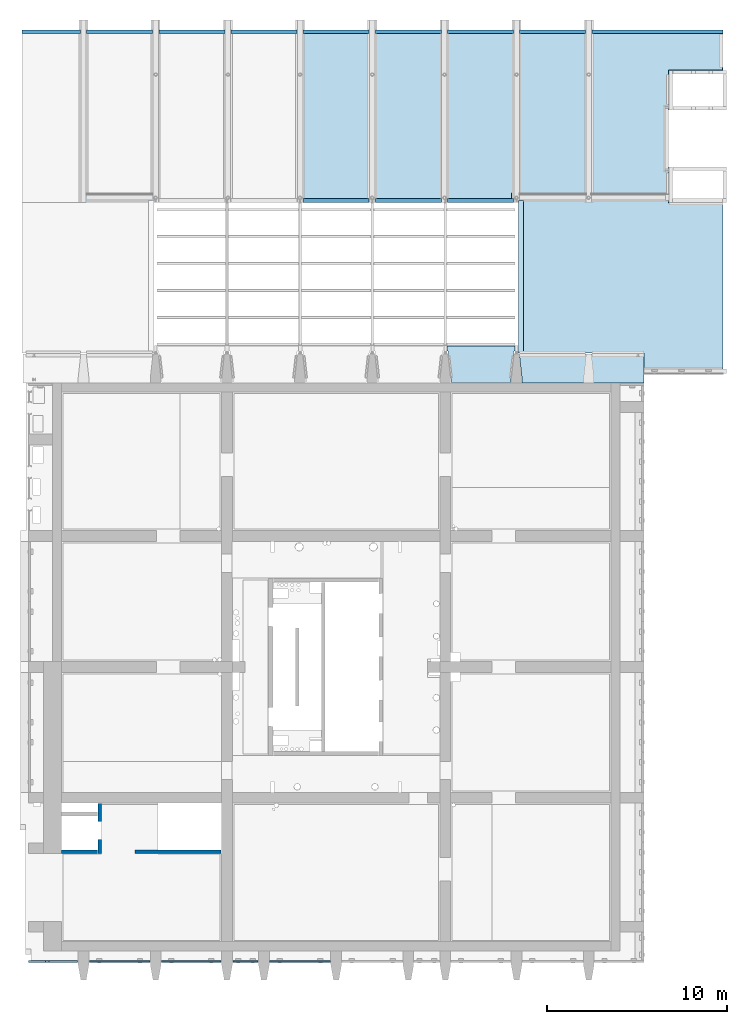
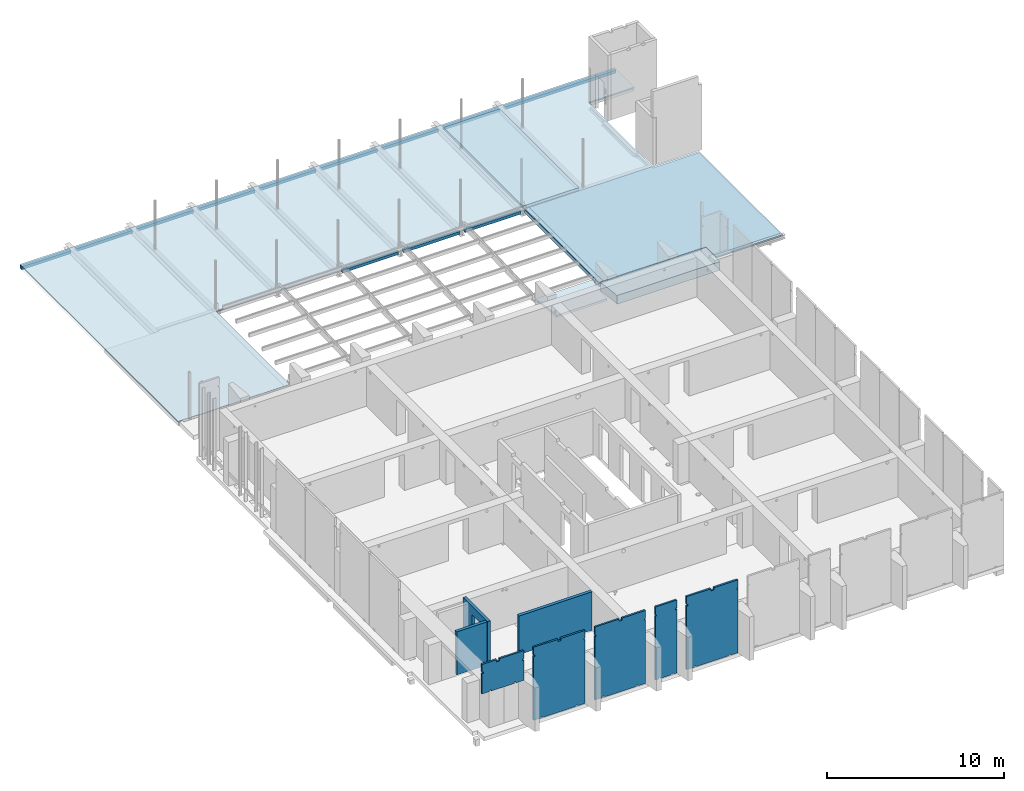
# One storey, part 25 of 31: 22 slabs, 8 walls, 25 openings.
"""IFC2X3 building model written with IfcOpenShell, lengths in millimetres."""

from ifc_helpers import new_model, entity, si_unit, converted_unit, derived_unit, direction, frame, frame_2d, origin, origin_2d_with_axis, place, context, subcontext, project, spatial, polyline, rectangle, outline, extrude, faceted_brep, material, layer, layer_set, layer_usage, type_object, element, save


model = new_model("IFC2X3")

# Units and contexts
model_context = context("Model", 3, precision=0.01, world=origin(), true_north=direction((6.12303176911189e-17, 1.0)))
body_context = subcontext(model_context, "Body", "Model", "MODEL_VIEW")
ifc_project = project(units=[si_unit("LENGTHUNIT", "METRE", prefix="MILLI"), si_unit("AREAUNIT", "SQUARE_METRE"), si_unit("VOLUMEUNIT", "CUBIC_METRE"), converted_unit("PLANEANGLEUNIT", "DEGREE", entity("IfcRatioMeasure", 0.0174532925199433), si_unit("PLANEANGLEUNIT", "RADIAN"), dimensions=[0, 0, 0, 0, 0, 0, 0]), si_unit("MASSUNIT", "GRAM", prefix="KILO"), derived_unit("MASSDENSITYUNIT", [(si_unit("MASSUNIT", "GRAM", prefix="KILO"), 1), (si_unit("LENGTHUNIT", "METRE"), -3)]), si_unit("TIMEUNIT", "SECOND"), si_unit("FREQUENCYUNIT", "HERTZ"), si_unit("THERMODYNAMICTEMPERATUREUNIT", "DEGREE_CELSIUS"), derived_unit("THERMALTRANSMITTANCEUNIT", [(si_unit("MASSUNIT", "GRAM", prefix="KILO"), 1), (si_unit("THERMODYNAMICTEMPERATUREUNIT", "KELVIN"), -1), (si_unit("TIMEUNIT", "SECOND"), -3)]), derived_unit("VOLUMETRICFLOWRATEUNIT", [(si_unit("LENGTHUNIT", "METRE"), 3), (si_unit("TIMEUNIT", "SECOND"), -1)]), si_unit("ELECTRICCURRENTUNIT", "AMPERE"), si_unit("ELECTRICVOLTAGEUNIT", "VOLT"), si_unit("POWERUNIT", "WATT"), si_unit("FORCEUNIT", "NEWTON", prefix="KILO"), si_unit("ILLUMINANCEUNIT", "LUX"), si_unit("LUMINOUSFLUXUNIT", "LUMEN"), si_unit("LUMINOUSINTENSITYUNIT", "CANDELA"), derived_unit("USERDEFINED", [(si_unit("MASSUNIT", "GRAM", prefix="KILO"), -1), (si_unit("LENGTHUNIT", "METRE"), -2), (si_unit("TIMEUNIT", "SECOND"), 3), (si_unit("LUMINOUSFLUXUNIT", "LUMEN"), 1)]), derived_unit("LINEARVELOCITYUNIT", [(si_unit("LENGTHUNIT", "METRE"), 1), (si_unit("TIMEUNIT", "SECOND"), -1)]), si_unit("PRESSUREUNIT", "PASCAL"), derived_unit("USERDEFINED", [(si_unit("LENGTHUNIT", "METRE"), -2), (si_unit("MASSUNIT", "GRAM", prefix="KILO"), 1), (si_unit("TIMEUNIT", "SECOND"), -2)])], contexts=[model_context])

# Site, building, storey
site_placement = place(None, origin())
site = spatial("IfcSite", under=ifc_project, at=site_placement, Name="Default", CompositionType="ELEMENT")
building_placement = place(site_placement, origin())
building = spatial("IfcBuilding", under=site, at=building_placement, Name="niet gebruiken", CompositionType="ELEMENT")
storey_placement = place(building_placement, frame((0.0, 0.0, 12000.0)))
storey = spatial("IfcBuildingStorey", under=building, at=storey_placement, Name="03 derde verdieping", CompositionType="ELEMENT", Elevation=12000.0)

# Slabs
ifc_material_1 = material(Name="NLRS_f2_beton prefab")
ifc_layer_1 = layer(ifc_material_1, 200.0)
ifc_layer_set_1 = layer_set([ifc_layer_1], Name="Floor:NLRS_23.21_FL_kanaalplaat d=200_gen")
ifc_layer_usage_1 = layer_usage(ifc_layer_set_1, "AXIS3", "POSITIVE", 0.0)
slab_1_placement = place(storey_placement, frame((124350.0, 43230.0, 1140.0)))
element("IfcSlab", 1, at=slab_1_placement, inside=storey, material=ifc_layer_usage_1, Name="Floor:NLRS_23.21_FL_kanaalplaat d=200_gen:2", ObjectType="Floor:NLRS_23.21_FL_kanaalplaat d=200_gen", PredefinedType="FLOOR", context=body_context, shape_type="SweptSolid", body=[
    extrude(outline(polyline([(-12160.0, 4685.0), (-19410.0, 4685.0), (-19410.0, 2655.0), (-16395.0, 2655.0), (-16395.0, 685.0), (-16200.0, 685.0), (-16200.0, -2965.0), (-16395.0, -2965.0), (-16395.0, -4285.0), (-12160.0, -4285.0), (-12160.0, 4685.0)])), frame((19410.0, 4685.0, 200.0), z_axis=(0.0, 0.0, -1.0), x_axis=(-1.0, 0.0, 0.0)), (0.0, 0.0, 1.0), 200.0),
])
slab_2_placement = place(storey_placement, frame((124350.0, 43230.0, 1140.0)))
element("IfcSlab", 2, at=slab_2_placement, inside=storey, material=ifc_layer_usage_1, Name="Floor:NLRS_23.21_FL_kanaalplaat d=200_gen:4", ObjectType="Floor:NLRS_23.21_FL_kanaalplaat d=200_gen", PredefinedType="FLOOR", context=body_context, shape_type="SweptSolid", body=[
    extrude(outline(polyline([(-7705.0, -4165.0), (-7705.0, -4465.0), (-4160.0, -4465.0), (-4160.0, 4685.0), (-7820.0, 4685.0), (-7820.0, -4165.0), (-7705.0, -4165.0)])), frame((19410.0, 4685.0, 200.0), z_axis=(0.0, 0.0, -1.0), x_axis=(-1.0, 0.0, 0.0)), (0.0, 0.0, 1.0), 200.0),
])
slab_3_placement = place(storey_placement, frame((124350.0, 43230.0, 1140.0)))
element("IfcSlab", 3, at=slab_3_placement, inside=storey, material=ifc_layer_usage_1, Name="Floor:NLRS_23.21_FL_kanaalplaat d=200_gen:6", ObjectType="Floor:NLRS_23.21_FL_kanaalplaat d=200_gen", PredefinedType="FLOOR", context=body_context, shape_type="SweptSolid", body=[
    extrude(rectangle(XDim=9150.00000000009, YDim=3660.0, at=frame_2d((2010.0, 110.0), x_axis=(0.0, 1.0))), frame((19410.0, 4685.0, 200.0), z_axis=(0.0, 0.0, -1.0), x_axis=(-1.0, 0.0, 0.0)), (0.0, 0.0, 1.0), 200.0),
])
slab_4_placement = place(storey_placement, frame((124350.0, 43230.0, 1140.0)))
element("IfcSlab", 4, at=slab_4_placement, inside=storey, material=ifc_layer_usage_1, Name="Floor:NLRS_23.21_FL_kanaalplaat d=200_gen:8", ObjectType="Floor:NLRS_23.21_FL_kanaalplaat d=200_gen", PredefinedType="FLOOR", context=body_context, shape_type="SweptSolid", body=[
    extrude(rectangle(XDim=9150.0000000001, YDim=3659.99999999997, at=frame_2d((-1990.0, 110.0), x_axis=(0.0, 1.0))), frame((19410.0, 4685.0, 200.0), z_axis=(0.0, 0.0, -1.0), x_axis=(-1.0, 0.0, 0.0)), (0.0, 0.0, 1.0), 200.0),
])
slab_5_placement = place(storey_placement, frame((124350.0, 43230.0, 1140.0)))
element("IfcSlab", 5, at=slab_5_placement, inside=storey, material=ifc_layer_usage_1, Name="Floor:NLRS_23.21_FL_kanaalplaat d=200_gen:9", ObjectType="Floor:NLRS_23.21_FL_kanaalplaat d=200_gen", PredefinedType="FLOOR", context=body_context, shape_type="SweptSolid", body=[
    extrude(rectangle(XDim=8970.00000000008, YDim=3660.00000000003, at=frame_2d((-9990.0, 200.0), x_axis=(0.0, 1.0))), frame((19410.0, 4685.0, 200.0), z_axis=(0.0, 0.0, -1.0), x_axis=(-1.0, 0.0, 0.0)), (0.0, 0.0, 1.0), 200.0),
])
ifc_material_2 = material(Name="NLRS_f2_beton ihwg")
ifc_layer_2 = layer(ifc_material_2, 70.0)
ifc_layer_set_2 = layer_set([ifc_layer_2], Name="Floor:NLRS_23.21_FL_druklaag d=70_gen")
ifc_layer_usage_2 = layer_usage(ifc_layer_set_2, "AXIS3", "POSITIVE", 0.0)
slab_6_placement = place(storey_placement, origin())
element("IfcSlab", 6, at=slab_6_placement, inside=storey, material=ifc_layer_usage_2, Name="Floor:NLRS_23.21_FL_druklaag d=70_gen", ObjectType="Floor:NLRS_23.21_FL_druklaag d=70_gen", PredefinedType="FLOOR", context=body_context, shape_type="SweptSolid", body=[
    extrude(outline(polyline([(-8106.33333333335, -28271.1111111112), (9808.66666666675, -28271.1111111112), (9808.66666666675, 10568.8888888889), (7558.66666666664, 10568.8888888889), (7558.66666666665, 7568.88888888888), (5358.66666666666, 7568.88888888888), (5358.66666666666, 7538.88888888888), (2208.66666666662, 7538.88888888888), (2208.66666666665, 7568.88888888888), (258.666666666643, 7568.88888888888), (258.666666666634, 10568.8888888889), (-9239.33333333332, 10568.8888888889), (-9239.33333333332, 6198.88888888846), (-8106.33333333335, 6198.88888888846), (-8106.33333333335, -776.111111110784), (258.666666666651, -776.111111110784), (258.666666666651, -20966.1111111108), (-8106.33333333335, -20966.1111111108), (-8106.33333333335, -28271.1111111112)])), frame((152621.111111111, 42991.3333333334, 1410.0), z_axis=(0.0, 0.0, -1.0), x_axis=(0.0, 1.0, 0.0)), (0.0, 0.0, 1.0), 69.9999999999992),
])
ifc_layer_3 = layer(ifc_material_2, 600.0)
ifc_layer_set_3 = layer_set([ifc_layer_3], Name="Floor:NLRS_23.21_FL_beton ihwg d=600_gen")
ifc_layer_usage_3 = layer_usage(ifc_layer_set_3, "AXIS3", "POSITIVE", 0.0)
slab_7_placement = place(storey_placement, origin())
element("IfcSlab", 7, at=slab_7_placement, inside=storey, material=ifc_layer_usage_3, Name="Floor:NLRS_23.21_FL_beton ihwg d=600_gen", ObjectType="Floor:NLRS_23.21_FL_beton ihwg d=600_gen", PredefinedType="FLOOR", context=body_context, shape_type="SweptSolid", body=[
    extrude(outline(polyline([(-4080.0, -702.0), (2670.0, -702.0), (2670.0, -432.0), (2820.0, 918.0), (-4080.0, 918.0), (-4080.0, -702.0)])), frame((154720.0, 33932.0, 1410.0), z_axis=(0.0, 0.0, -1.0), x_axis=(-1.0, 0.0, 0.0)), (0.0, 0.0, 1.0), 600.0),
])
ifc_layer_4 = layer(ifc_material_1, 255.0)
ifc_layer_set_4 = layer_set([ifc_layer_4], Name="Floor:NLRS_23.21_FL_kanaalplaat d=255_gen")
ifc_layer_usage_4 = layer_usage(ifc_layer_set_4, "AXIS3", "POSITIVE", 0.0)
slab_8_placement = place(storey_placement, origin())
element("IfcSlab", 8, at=slab_8_placement, inside=storey, material=ifc_layer_usage_4, Name="Floor:NLRS_23.21_FL_kanaalplaat d=255_gen", ObjectType="Floor:NLRS_23.21_FL_kanaalplaat d=255_gen", PredefinedType="FLOOR", context=body_context, shape_type="SweptSolid", body=[
    extrude(outline(polyline([(-3984.24999999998, -6436.24999999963), (4480.74999999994, -6436.24999999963), (4480.74999999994, 1588.75000000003), (4345.75000000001, 1588.75000000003), (4345.75, 4608.75), (-4842.24999999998, 4608.75), (-4842.24999999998, 238.749999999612), (-3984.24999999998, 238.749999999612), (-3984.24999999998, -6436.24999999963)])), frame((158581.25, 38869.25, 1340.0), z_axis=(0.0, 0.0, -1.0), x_axis=(0.0, 1.0, 0.0)), (0.0, 0.0, 1.0), 255.000000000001),
])
ifc_layer_5 = layer(ifc_material_1, 150.0)
ifc_layer_set_5 = layer_set([ifc_layer_5], Name="Floor:NLRS_23.21_FL_beton prefab d=150_gen")
ifc_layer_usage_5 = layer_usage(ifc_layer_set_5, "AXIS3", "POSITIVE", 0.0)
slab_9_placement = place(storey_placement, origin())
element("IfcSlab", 9, at=slab_9_placement, inside=storey, material=ifc_layer_usage_5, Name="Floor:NLRS_23.21_FL_beton prefab d=150_gen", ObjectType="Floor:NLRS_23.21_FL_beton prefab d=150_gen", PredefinedType="FLOOR", context=body_context, shape_type="SweptSolid", body=[
    extrude(outline(polyline([(597.778459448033, -1875.0), (877.778459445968, -1875.0), (877.778459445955, 1875.0), (597.778459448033, 1875.0), (597.778459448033, 1822.65469969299), (-911.113837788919, 1655.0), (-1162.22154055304, 1655.0), (-1162.221540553, -1655.0), (-911.113837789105, -1655.0), (597.778459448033, -1822.65469969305), (597.778459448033, -1875.0)])), frame((149775.0, 34412.221540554, 1410.0), z_axis=(0.0, 0.0, -1.0), x_axis=(0.0, 1.0, 0.0)), (0.0, 0.0, 1.0), 150.000000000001),
])
ifc_layer_6 = layer(ifc_material_2, 255.0)
ifc_layer_set_6 = layer_set([ifc_layer_6], Name="Floor:NLRS_13.22_FL_beton ihwg d=255_gen")
ifc_layer_usage_6 = layer_usage(ifc_layer_set_6, "AXIS3", "POSITIVE", 0.0)
slab_10_placement = place(storey_placement, origin())
element("IfcSlab", 10, at=slab_10_placement, inside=storey, material=ifc_layer_usage_6, Name="Floor:NLRS_13.22_FL_beton ihwg d=255_gen", ObjectType="Floor:NLRS_13.22_FL_beton ihwg d=255_gen", PredefinedType="BASESLAB", context=body_context, shape_type="SweptSolid", body=[
    extrude(rectangle(XDim=8464.99999999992, YDim=300.000000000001, at=frame_2d((-1.81898940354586e-12, 0.0), x_axis=(1.0, 0.0))), frame((151995.0, 39117.5, 1340.0), z_axis=(0.0, 0.0, -1.0), x_axis=(0.0, 1.0, 0.0)), (0.0, 0.0, 1.0), 255.000000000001),
])
ifc_layer_7 = layer(ifc_material_2, 200.0)
ifc_layer_set_7 = layer_set([ifc_layer_7], Name="Floor:NLRS_13.22_FL_beton ihwg d=200_gen")
ifc_layer_usage_7 = layer_usage(ifc_layer_set_7, "AXIS3", "POSITIVE", 0.0)
slab_11_placement = place(storey_placement, frame((124350.0, 52600.0, 1140.0)))
element("IfcSlab", 11, at=slab_11_placement, inside=storey, material=ifc_layer_usage_7, Name="Floor:NLRS_13.22_FL_beton ihwg d=200_gen", ObjectType="Floor:NLRS_13.22_FL_beton ihwg d=200_gen", PredefinedType="BASESLAB", context=body_context, shape_type="SweptSolid", body=[
    extrude(rectangle(XDim=3660.0, YDim=199.999999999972, at=frame_2d((2020.0, 0.0), x_axis=(1.0, 0.0))), frame((19420.0, 100.0, 200.0), z_axis=(0.0, 0.0, -1.0), x_axis=(-1.0, 0.0, 0.0)), (0.0, 0.0, 1.0), 200.0),
])
slab_12_placement = place(storey_placement, frame((124350.0, 52600.0, 1140.0)))
element("IfcSlab", 12, at=slab_12_placement, inside=storey, material=ifc_layer_usage_7, Name="Floor:NLRS_13.22_FL_beton ihwg d=200_gen:2", ObjectType="Floor:NLRS_13.22_FL_beton ihwg d=200_gen", PredefinedType="BASESLAB", context=body_context, shape_type="SweptSolid", body=[
    extrude(rectangle(XDim=3660.0, YDim=199.999999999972, at=frame_2d((6020.0, 0.0), x_axis=(1.0, 0.0))), frame((19420.0, 100.0, 200.0), z_axis=(0.0, 0.0, -1.0), x_axis=(-1.0, 0.0, 0.0)), (0.0, 0.0, 1.0), 200.0),
])
slab_13_placement = place(storey_placement, frame((124350.0, 52600.0, 1140.0)))
element("IfcSlab", 13, at=slab_13_placement, inside=storey, material=ifc_layer_usage_7, Name="Floor:NLRS_13.22_FL_beton ihwg d=200_gen:3", ObjectType="Floor:NLRS_13.22_FL_beton ihwg d=200_gen", PredefinedType="BASESLAB", context=body_context, shape_type="SweptSolid", body=[
    extrude(rectangle(XDim=3660.0, YDim=199.999999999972, at=frame_2d((10020.0, 0.0), x_axis=(1.0, 0.0))), frame((19420.0, 100.0, 200.0), z_axis=(0.0, 0.0, -1.0), x_axis=(-1.0, 0.0, 0.0)), (0.0, 0.0, 1.0), 200.0),
])
slab_14_placement = place(storey_placement, frame((124350.0, 52600.0, 1140.0)))
element("IfcSlab", 14, at=slab_14_placement, inside=storey, material=ifc_layer_usage_7, Name="Floor:NLRS_13.22_FL_beton ihwg d=200_gen:4", ObjectType="Floor:NLRS_13.22_FL_beton ihwg d=200_gen", PredefinedType="BASESLAB", context=body_context, shape_type="SweptSolid", body=[
    extrude(rectangle(XDim=3660.0, YDim=199.999999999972, at=frame_2d((14020.0, 0.0), x_axis=(1.0, 0.0))), frame((19420.0, 100.0, 200.0), z_axis=(0.0, 0.0, -1.0), x_axis=(-1.0, 0.0, 0.0)), (0.0, 0.0, 1.0), 200.0),
])
slab_15_placement = place(storey_placement, frame((124350.0, 52600.0, 1140.0)))
element("IfcSlab", 15, at=slab_15_placement, inside=storey, material=ifc_layer_usage_7, Name="Floor:NLRS_13.22_FL_beton ihwg d=200_gen:5", ObjectType="Floor:NLRS_13.22_FL_beton ihwg d=200_gen", PredefinedType="BASESLAB", context=body_context, shape_type="SweptSolid", body=[
    extrude(rectangle(XDim=3230.00000000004, YDim=199.999999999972, at=frame_2d((17805.0, 0.0), x_axis=(1.0, 0.0))), frame((19420.0, 100.0, 200.0), z_axis=(0.0, 0.0, -1.0), x_axis=(-1.0, 0.0, 0.0)), (0.0, 0.0, 1.0), 200.0),
])
slab_16_placement = place(storey_placement, frame((124350.0, 52600.0, 1140.0)))
element("IfcSlab", 16, at=slab_16_placement, inside=storey, material=ifc_layer_usage_7, Name="Floor:NLRS_13.22_FL_beton ihwg d=200_gen:6", ObjectType="Floor:NLRS_13.22_FL_beton ihwg d=200_gen", PredefinedType="BASESLAB", context=body_context, shape_type="SweptSolid", body=[
    extrude(rectangle(XDim=3660.0, YDim=199.999999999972, at=frame_2d((-1980.0, 0.0), x_axis=(1.0, 0.0))), frame((19420.0, 100.0, 200.0), z_axis=(0.0, 0.0, -1.0), x_axis=(-1.0, 0.0, 0.0)), (0.0, 0.0, 1.0), 200.0),
])
slab_17_placement = place(storey_placement, frame((124350.0, 52600.0, 1140.0)))
element("IfcSlab", 17, at=slab_17_placement, inside=storey, material=ifc_layer_usage_7, Name="Floor:NLRS_13.22_FL_beton ihwg d=200_gen:7", ObjectType="Floor:NLRS_13.22_FL_beton ihwg d=200_gen", PredefinedType="BASESLAB", context=body_context, shape_type="SweptSolid", body=[
    extrude(rectangle(XDim=3660.0, YDim=199.999999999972, at=frame_2d((-5980.0, 0.0), x_axis=(1.0, 0.0))), frame((19420.0, 100.0, 200.0), z_axis=(0.0, 0.0, -1.0), x_axis=(-1.0, 0.0, 0.0)), (0.0, 0.0, 1.0), 200.0),
])
slab_18_placement = place(storey_placement, frame((124350.0, 52600.0, 1140.0)))
element("IfcSlab", 18, at=slab_18_placement, inside=storey, material=ifc_layer_usage_7, Name="Floor:NLRS_13.22_FL_beton ihwg d=200_gen:8", ObjectType="Floor:NLRS_13.22_FL_beton ihwg d=200_gen", PredefinedType="BASESLAB", context=body_context, shape_type="SweptSolid", body=[
    extrude(rectangle(XDim=3660.0, YDim=199.999999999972, at=frame_2d((-9980.0, 0.0), x_axis=(1.0, 0.0))), frame((19420.0, 100.0, 200.0), z_axis=(0.0, 0.0, -1.0), x_axis=(-1.0, 0.0, 0.0)), (0.0, 0.0, 1.0), 200.0),
])
slab_19_placement = place(storey_placement, frame((124350.0, 52600.0, 1140.0)))
element("IfcSlab", 19, at=slab_19_placement, inside=storey, material=ifc_layer_usage_7, Name="Floor:NLRS_13.22_FL_beton ihwg d=200_gen:9", ObjectType="Floor:NLRS_13.22_FL_beton ihwg d=200_gen", PredefinedType="BASESLAB", context=body_context, shape_type="SweptSolid", body=[
    extrude(rectangle(XDim=7270.00000000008, YDim=199.999999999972, at=frame_2d((-15785.0, 0.0), x_axis=(1.0, 0.0))), frame((19420.0, 100.0, 200.0), z_axis=(0.0, 0.0, -1.0), x_axis=(-1.0, 0.0, 0.0)), (0.0, 0.0, 1.0), 200.0),
])
ifc_layer_usage_8 = layer_usage(ifc_layer_set_7, "AXIS3", "POSITIVE", 0.0)
slab_20_placement = place(storey_placement, frame((131920.0, 43250.0, 1140.0)))
element("IfcSlab", 20, at=slab_20_placement, inside=storey, material=ifc_layer_usage_8, Name="Floor:NLRS_13.22_FL_beton ihwg d=200_gen", ObjectType="Floor:NLRS_13.22_FL_beton ihwg d=200_gen", PredefinedType="BASESLAB", context=body_context, shape_type="SweptSolid", body=[
    extrude(rectangle(XDim=3660.0, YDim=199.999999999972, at=origin_2d_with_axis()), frame((9830.0, 100.0, 200.0), z_axis=(0.0, 0.0, -1.0), x_axis=(-1.0, 0.0, 0.0)), (0.0, 0.0, 1.0), 200.0),
])
slab_21_placement = place(storey_placement, frame((131920.0, 43250.0, 1140.0)))
element("IfcSlab", 21, at=slab_21_placement, inside=storey, material=ifc_layer_usage_8, Name="Floor:NLRS_13.22_FL_beton ihwg d=200_gen:4", ObjectType="Floor:NLRS_13.22_FL_beton ihwg d=200_gen", PredefinedType="BASESLAB", context=body_context, shape_type="SweptSolid", body=[
    extrude(rectangle(XDim=3660.0, YDim=199.999999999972, at=frame_2d((-4000.0, 0.0), x_axis=(1.0, 0.0))), frame((9830.0, 100.0, 200.0), z_axis=(0.0, 0.0, -1.0), x_axis=(-1.0, 0.0, 0.0)), (0.0, 0.0, 1.0), 200.0),
])
slab_22_placement = place(storey_placement, frame((131920.0, 43250.0, 1140.0)))
element("IfcSlab", 22, at=slab_22_placement, inside=storey, material=ifc_layer_usage_8, Name="Floor:NLRS_13.22_FL_beton ihwg d=200_gen:5", ObjectType="Floor:NLRS_13.22_FL_beton ihwg d=200_gen", PredefinedType="BASESLAB", context=body_context, shape_type="SweptSolid", body=[
    extrude(rectangle(XDim=3660.0, YDim=199.999999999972, at=frame_2d((-8000.0, 0.0), x_axis=(1.0, 0.0))), frame((9830.0, 100.0, 200.0), z_axis=(0.0, 0.0, -1.0), x_axis=(-1.0, 0.0, 0.0)), (0.0, 0.0, 1.0), 200.0),
])

# Wall, opening
ifc_layer_8 = layer(ifc_material_1, 200.0)
ifc_layer_set_8 = layer_set([ifc_layer_8], Name="Basic Wall:NLRS_22.21_WA_beton prefab d=200_gen")
ifc_layer_usage_9 = layer_usage(ifc_layer_set_8, "AXIS2", "NEGATIVE", 100.0)
wall_type_1 = type_object("IfcWallType", Name="Basic Wall:NLRS_22.21_WA_beton prefab d=200_gen", PredefinedType="STANDARD", material=ifc_layer_set_8)
wall_1_placement = place(storey_placement, frame((128640.0, 7150.0, -50.0), z_axis=(0.0, 0.0, 1.0), x_axis=(0.0, 1.0, 0.0)))
wall_1 = element("IfcWallStandardCase", 23, at=wall_1_placement, inside=storey, type_object=wall_type_1, material=ifc_layer_usage_9, Name="Basic Wall:NLRS_22.21_WA_beton prefab d=200_gen", ObjectType="Basic Wall:NLRS_22.21_WA_beton prefab d=200_gen", context=body_context, shape_type="SweptSolid", body=[
    extrude(rectangle(XDim=2779.99999999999, YDim=199.999999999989, at=frame_2d((1390.0, 0.0), x_axis=(-1.0, 0.0))), origin(), (0.0, 0.0, 1.0), 2980.0),
])
opening_1_placement = place(wall_1_placement, frame((778.0, 100.0, 0.0)))
element("IfcOpeningElement", 24, at=opening_1_placement, cuts=wall_1, Name="Basic Wall:NLRS_22.21_WA_beton prefab d=200_gen", ObjectType="Opening", context=body_context, shape_type="Brep", body=[
    faceted_brep([(992.0, 0.0, 2390.0), (992.0, 0.0, 0.0), (12.0, 0.0, 0.0), (12.0, 0.0, 2390.0), (1004.0, -200.0, 2402.0), (0.0, -200.0, 2402.0), (0.0, -200.0, 0.0), (1004.0, -200.0, 0.0)], [[[0, 1, 2, 3]], [[4, 5, 6, 7]], [[4, 0, 3, 5]], [[5, 3, 2, 6]], [[6, 2, 1, 7]], [[7, 1, 0, 4]]]),
])

# Walls
ifc_layer_usage_10 = layer_usage(ifc_layer_set_8, "AXIS2", "NEGATIVE", 100.0)
wall_2_placement = place(storey_placement, frame((126540.0, 7250.0, -50.0)))
element("IfcWallStandardCase", 25, at=wall_2_placement, inside=storey, type_object=wall_type_1, material=ifc_layer_usage_10, Name="Basic Wall:NLRS_22.21_WA_beton prefab d=200_gen", ObjectType="Basic Wall:NLRS_22.21_WA_beton prefab d=200_gen", context=body_context, shape_type="SweptSolid", body=[
    extrude(rectangle(XDim=1979.99999999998, YDim=200.0, at=frame_2d((989.999999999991, -2.98427949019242e-13), x_axis=(-1.0, 0.0))), origin(), (0.0, 0.0, 1.0), 2980.0),
])
ifc_layer_usage_11 = layer_usage(ifc_layer_set_8, "AXIS2", "NEGATIVE", 100.0)
wall_3_placement = place(storey_placement, frame((130600.0, 7250.0, -50.0)))
element("IfcWallStandardCase", 26, at=wall_3_placement, inside=storey, type_object=wall_type_1, material=ifc_layer_usage_11, Name="Basic Wall:NLRS_22.21_WA_beton prefab d=200_gen", ObjectType="Basic Wall:NLRS_22.21_WA_beton prefab d=200_gen", context=body_context, shape_type="SweptSolid", body=[
    extrude(rectangle(XDim=4780.00000000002, YDim=200.0, at=frame_2d((2390.00000000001, 7.105427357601e-14), x_axis=(-1.0, 0.0))), origin(), (0.0, 0.0, 1.0), 2660.0),
])

# Wall, openings
ifc_layer_9 = layer(ifc_material_1, 120.0)
ifc_layer_set_9 = layer_set([ifc_layer_9], Name="Basic Wall:NLRS_21.21_WA_beton prefab d=120_gen")
ifc_layer_usage_12 = layer_usage(ifc_layer_set_9, "AXIS2", "NEGATIVE", 60.0)
wall_type_2 = type_object("IfcWallType", Name="Basic Wall:NLRS_21.21_WA_beton prefab d=120_gen", PredefinedType="STANDARD", material=ifc_layer_set_9)
wall_4_placement = place(storey_placement, frame((131430.0, 1174.0, -60.0), z_axis=(0.0, 0.0, 1.0), x_axis=(-1.0, 0.0, 0.0)))
wall_4 = element("IfcWallStandardCase", 27, at=wall_4_placement, inside=storey, type_object=wall_type_2, material=ifc_layer_usage_12, Name="Basic Wall:NLRS_21.21_WA_beton prefab d=120_gen", ObjectType="Basic Wall:NLRS_21.21_WA_beton prefab d=120_gen", context=body_context, shape_type="SweptSolid", body=[
    extrude(rectangle(XDim=3360.0, YDim=120.0, at=frame_2d((1680.0, -4.61852778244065e-14), x_axis=(-1.0, 0.0))), origin(), (0.0, 0.0, 1.0), 5045.00000000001),
])
opening_2_placement = place(wall_4_placement, origin())
element("IfcOpeningElement", 28, at=opening_2_placement, cuts=wall_4, Name="Basic Wall:NLRS_21.21_WA_beton prefab d=120_gen", ObjectType="Opening", context=body_context, shape_type="SweptSolid", body=[
    extrude(rectangle(XDim=150.000000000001, YDim=190.000000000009, at=origin_2d_with_axis()), frame((1680.0, -79.0, 4970.0), z_axis=(0.0, 1.0, 0.0), x_axis=(0.0, 0.0, -1.0)), (0.0, 0.0, 1.0), 158.000000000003),
])
opening_3_placement = place(wall_4_placement, origin())
element("IfcOpeningElement", 29, at=opening_3_placement, cuts=wall_4, Name="Basic Wall:NLRS_21.21_WA_beton prefab d=120_gen", ObjectType="Opening", context=body_context, shape_type="SweptSolid", body=[
    extrude(rectangle(XDim=99.9999999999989, YDim=79.9999999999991, at=frame_2d((2.16715534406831e-12, 0.0), x_axis=(1.0, 0.0))), frame((3320.0, -75.0, 4445.0), z_axis=(0.0, 1.0, 0.0), x_axis=(0.0, 0.0, -1.0)), (0.0, 0.0, 1.0), 150.000000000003),
])
opening_4_placement = place(wall_4_placement, origin())
element("IfcOpeningElement", 30, at=opening_4_placement, cuts=wall_4, Name="Basic Wall:NLRS_21.21_WA_beton prefab d=120_gen", ObjectType="Opening", context=body_context, shape_type="SweptSolid", body=[
    extrude(rectangle(XDim=99.9999999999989, YDim=80.0000000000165, at=frame_2d((-8.66506866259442e-12, 0.0), x_axis=(0.0, 1.0))), frame((40.0, -75.0, 4445.0), z_axis=(0.0, 1.0, 0.0), x_axis=(1.0, 0.0, 0.0)), (0.0, 0.0, 1.0), 150.000000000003),
])
opening_5_placement = place(wall_4_placement, origin())
element("IfcOpeningElement", 31, at=opening_5_placement, cuts=wall_4, Name="Basic Wall:NLRS_21.21_WA_beton prefab d=120_gen", ObjectType="Opening", context=body_context, shape_type="SweptSolid", body=[
    extrude(rectangle(XDim=79.9999999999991, YDim=100.000000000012, at=frame_2d((8.66506866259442e-12, 0.0), x_axis=(0.0, 1.0))), frame((2810.0, -75.0, 40.0), z_axis=(0.0, 1.0, 0.0), x_axis=(1.0, 0.0, 0.0)), (0.0, 0.0, 1.0), 150.000000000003),
])
opening_6_placement = place(wall_4_placement, origin())
element("IfcOpeningElement", 32, at=opening_6_placement, cuts=wall_4, Name="Basic Wall:NLRS_21.21_WA_beton prefab d=120_gen", ObjectType="Opening", context=body_context, shape_type="SweptSolid", body=[
    extrude(rectangle(XDim=79.9999999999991, YDim=99.9999999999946, at=origin_2d_with_axis()), frame((550.0, -75.0, 40.0), z_axis=(0.0, 1.0, 0.0), x_axis=(0.0, 0.0, -1.0)), (0.0, 0.0, 1.0), 150.000000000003),
])

ifc_layer_usage_13 = layer_usage(ifc_layer_set_9, "AXIS2", "NEGATIVE", 60.0)
wall_5_placement = place(storey_placement, frame((141430.0, 1174.0, -60.0), z_axis=(0.0, 0.0, 1.0), x_axis=(-1.0, 0.0, 0.0)))
wall_5 = element("IfcWallStandardCase", 33, at=wall_5_placement, inside=storey, type_object=wall_type_2, material=ifc_layer_usage_13, Name="Basic Wall:NLRS_21.21_WA_beton prefab d=120_gen", ObjectType="Basic Wall:NLRS_21.21_WA_beton prefab d=120_gen", context=body_context, shape_type="SweptSolid", body=[
    extrude(rectangle(XDim=3360.0, YDim=120.0, at=frame_2d((1680.0, -4.61852778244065e-14), x_axis=(-1.0, 0.0))), origin(), (0.0, 0.0, 1.0), 5045.00000000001),
])
opening_7_placement = place(wall_5_placement, origin())
element("IfcOpeningElement", 34, at=opening_7_placement, cuts=wall_5, Name="Basic Wall:NLRS_21.21_WA_beton prefab d=120_gen", ObjectType="Opening", context=body_context, shape_type="SweptSolid", body=[
    extrude(rectangle(XDim=150.000000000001, YDim=190.000000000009, at=frame_2d((0.0, -1.73301373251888e-11), x_axis=(1.0, 0.0))), frame((1680.0, -79.0, 4970.0), z_axis=(0.0, 1.0, 0.0), x_axis=(0.0, 0.0, -1.0)), (0.0, 0.0, 1.0), 158.000000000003),
])
opening_8_placement = place(wall_5_placement, origin())
element("IfcOpeningElement", 35, at=opening_8_placement, cuts=wall_5, Name="Basic Wall:NLRS_21.21_WA_beton prefab d=120_gen", ObjectType="Opening", context=body_context, shape_type="SweptSolid", body=[
    extrude(rectangle(XDim=99.9999999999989, YDim=79.9999999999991, at=frame_2d((-2.16715534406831e-12, 0.0), x_axis=(1.0, 0.0))), frame((3320.0, -75.0, 4445.0), z_axis=(0.0, 1.0, 0.0), x_axis=(0.0, 0.0, -1.0)), (0.0, 0.0, 1.0), 150.000000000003),
])
opening_9_placement = place(wall_5_placement, origin())
element("IfcOpeningElement", 36, at=opening_9_placement, cuts=wall_5, Name="Basic Wall:NLRS_21.21_WA_beton prefab d=120_gen", ObjectType="Opening", context=body_context, shape_type="SweptSolid", body=[
    extrude(rectangle(XDim=99.9999999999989, YDim=80.0000000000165, at=frame_2d((8.66506866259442e-12, 0.0), x_axis=(0.0, 1.0))), frame((40.0, -75.0, 4445.0), z_axis=(0.0, 1.0, 0.0), x_axis=(1.0, 0.0, 0.0)), (0.0, 0.0, 1.0), 150.000000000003),
])
opening_10_placement = place(wall_5_placement, origin())
element("IfcOpeningElement", 37, at=opening_10_placement, cuts=wall_5, Name="Basic Wall:NLRS_21.21_WA_beton prefab d=120_gen", ObjectType="Opening", context=body_context, shape_type="SweptSolid", body=[
    extrude(rectangle(XDim=79.9999999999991, YDim=100.000000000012, at=frame_2d((-8.66506866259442e-12, 0.0), x_axis=(0.0, 1.0))), frame((2810.0, -75.0, 40.0), z_axis=(0.0, 1.0, 0.0), x_axis=(1.0, 0.0, 0.0)), (0.0, 0.0, 1.0), 150.000000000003),
])
opening_11_placement = place(wall_5_placement, origin())
element("IfcOpeningElement", 38, at=opening_11_placement, cuts=wall_5, Name="Basic Wall:NLRS_21.21_WA_beton prefab d=120_gen", ObjectType="Opening", context=body_context, shape_type="SweptSolid", body=[
    extrude(rectangle(XDim=79.9999999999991, YDim=99.9999999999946, at=origin_2d_with_axis()), frame((550.0, -75.0, 40.0), z_axis=(0.0, 1.0, 0.0), x_axis=(0.0, 0.0, -1.0)), (0.0, 0.0, 1.0), 150.000000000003),
])

ifc_layer_usage_14 = layer_usage(ifc_layer_set_9, "AXIS2", "NEGATIVE", 60.0)
wall_6_placement = place(storey_placement, frame((135380.0, 1174.0, -60.0), z_axis=(0.0, 0.0, 1.0), x_axis=(-1.0, 0.0, 0.0)))
wall_6 = element("IfcWallStandardCase", 39, at=wall_6_placement, inside=storey, type_object=wall_type_2, material=ifc_layer_usage_14, Name="Basic Wall:NLRS_21.21_WA_beton prefab d=120_gen", ObjectType="Basic Wall:NLRS_21.21_WA_beton prefab d=120_gen", context=body_context, shape_type="SweptSolid", body=[
    extrude(rectangle(XDim=3309.99999999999, YDim=120.0, at=frame_2d((1655.0, 1.06581410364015e-14), x_axis=(-1.0, 0.0))), origin(), (0.0, 0.0, 1.0), 5045.00000000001),
])
opening_12_placement = place(wall_6_placement, origin())
element("IfcOpeningElement", 40, at=opening_12_placement, cuts=wall_6, Name="Basic Wall:NLRS_21.21_WA_beton prefab d=120_gen", ObjectType="Opening", context=body_context, shape_type="SweptSolid", body=[
    extrude(rectangle(XDim=150.000000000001, YDim=190.000000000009, at=origin_2d_with_axis()), frame((1630.0, -79.0, 4970.0), z_axis=(0.0, 1.0, 0.0), x_axis=(0.0, 0.0, -1.0)), (0.0, 0.0, 1.0), 158.000000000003),
])
opening_13_placement = place(wall_6_placement, origin())
element("IfcOpeningElement", 41, at=opening_13_placement, cuts=wall_6, Name="Basic Wall:NLRS_21.21_WA_beton prefab d=120_gen", ObjectType="Opening", context=body_context, shape_type="SweptSolid", body=[
    extrude(rectangle(XDim=99.9999999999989, YDim=79.9999999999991, at=frame_2d((-2.16715534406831e-12, 1.732658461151e-11), x_axis=(1.0, 0.0))), frame((3270.0, -75.0, 4445.0), z_axis=(0.0, 1.0, 0.0), x_axis=(0.0, 0.0, -1.0)), (0.0, 0.0, 1.0), 150.000000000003),
])
opening_14_placement = place(wall_6_placement, origin())
element("IfcOpeningElement", 42, at=opening_14_placement, cuts=wall_6, Name="Basic Wall:NLRS_21.21_WA_beton prefab d=120_gen", ObjectType="Opening", context=body_context, shape_type="SweptSolid", body=[
    extrude(rectangle(XDim=79.9999999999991, YDim=100.000000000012, at=frame_2d((-8.66506866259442e-12, 0.0), x_axis=(0.0, 1.0))), frame((2760.0, -75.0, 40.0), z_axis=(0.0, 1.0, 0.0), x_axis=(1.0, 0.0, 0.0)), (0.0, 0.0, 1.0), 150.000000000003),
])
opening_15_placement = place(wall_6_placement, origin())
element("IfcOpeningElement", 43, at=opening_15_placement, cuts=wall_6, Name="Basic Wall:NLRS_21.21_WA_beton prefab d=120_gen", ObjectType="Opening", context=body_context, shape_type="SweptSolid", body=[
    extrude(rectangle(XDim=79.9999999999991, YDim=99.9999999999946, at=origin_2d_with_axis()), frame((550.0, -75.0, 40.0), z_axis=(0.0, 1.0, 0.0), x_axis=(0.0, 0.0, -1.0)), (0.0, 0.0, 1.0), 150.000000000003),
])
opening_16_placement = place(wall_6_placement, origin())
element("IfcOpeningElement", 44, at=opening_16_placement, cuts=wall_6, Name="Basic Wall:NLRS_21.21_WA_beton prefab d=120_gen", ObjectType="Opening", context=body_context, shape_type="SweptSolid", body=[
    extrude(rectangle(XDim=99.9999999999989, YDim=80.0000000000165, at=frame_2d((-8.66506866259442e-12, 0.0), x_axis=(0.0, 1.0))), frame((40.0, -75.0, 4445.0), z_axis=(0.0, 1.0, 0.0), x_axis=(1.0, 0.0, 0.0)), (0.0, 0.0, 1.0), 150.000000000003),
])

ifc_layer_usage_15 = layer_usage(ifc_layer_set_9, "AXIS2", "NEGATIVE", 60.0)
wall_7_placement = place(storey_placement, frame((137430.0, 1174.0, -60.0), z_axis=(0.0, 0.0, 1.0), x_axis=(-1.0, 0.0, 0.0)))
wall_7 = element("IfcWallStandardCase", 45, at=wall_7_placement, inside=storey, type_object=wall_type_2, material=ifc_layer_usage_15, Name="Basic Wall:NLRS_21.21_WA_beton prefab d=120_gen", ObjectType="Basic Wall:NLRS_21.21_WA_beton prefab d=120_gen", context=body_context, shape_type="SweptSolid", body=[
    extrude(rectangle(XDim=1409.99999999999, YDim=120.0, at=frame_2d((704.999999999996, -4.9737991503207e-14), x_axis=(-1.0, 0.0))), origin(), (0.0, 0.0, 1.0), 5045.00000000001),
])
opening_17_placement = place(wall_7_placement, origin())
element("IfcOpeningElement", 46, at=opening_17_placement, cuts=wall_7, Name="Basic Wall:NLRS_21.21_WA_beton prefab d=120_gen", ObjectType="Opening", context=body_context, shape_type="SweptSolid", body=[
    extrude(rectangle(XDim=99.9999999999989, YDim=79.9999999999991, at=frame_2d((-2.16715534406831e-12, 0.0), x_axis=(1.0, 0.0))), frame((1370.0, -75.0, 4445.0), z_axis=(0.0, 1.0, 0.0), x_axis=(0.0, 0.0, -1.0)), (0.0, 0.0, 1.0), 150.000000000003),
])
opening_18_placement = place(wall_7_placement, origin())
element("IfcOpeningElement", 47, at=opening_18_placement, cuts=wall_7, Name="Basic Wall:NLRS_21.21_WA_beton prefab d=120_gen", ObjectType="Opening", context=body_context, shape_type="SweptSolid", body=[
    extrude(rectangle(XDim=79.9999999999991, YDim=100.000000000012, at=frame_2d((-8.66506866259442e-12, 0.0), x_axis=(0.0, 1.0))), frame((1110.0, -75.0, 40.0), z_axis=(0.0, 1.0, 0.0), x_axis=(1.0, 0.0, 0.0)), (0.0, 0.0, 1.0), 150.000000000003),
])
opening_19_placement = place(wall_7_placement, origin())
element("IfcOpeningElement", 48, at=opening_19_placement, cuts=wall_7, Name="Basic Wall:NLRS_21.21_WA_beton prefab d=120_gen", ObjectType="Opening", context=body_context, shape_type="SweptSolid", body=[
    extrude(rectangle(XDim=99.9999999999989, YDim=80.0000000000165, at=frame_2d((8.66506866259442e-12, 2.16715534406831e-12), x_axis=(0.0, 1.0))), frame((40.0, -75.0, 4445.0), z_axis=(0.0, 1.0, 0.0), x_axis=(1.0, 0.0, 0.0)), (0.0, 0.0, 1.0), 150.000000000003),
])
opening_20_placement = place(wall_7_placement, origin())
element("IfcOpeningElement", 49, at=opening_20_placement, cuts=wall_7, Name="Basic Wall:NLRS_21.21_WA_beton prefab d=120_gen", ObjectType="Opening", context=body_context, shape_type="SweptSolid", body=[
    extrude(rectangle(XDim=79.9999999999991, YDim=99.9999999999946, at=origin_2d_with_axis()), frame((300.0, -75.0, 40.0), z_axis=(0.0, 1.0, 0.0), x_axis=(0.0, 0.0, -1.0)), (0.0, 0.0, 1.0), 150.000000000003),
])

ifc_layer_usage_16 = layer_usage(ifc_layer_set_9, "AXIS2", "NEGATIVE", 60.0)
wall_8_placement = place(storey_placement, frame((127430.0, 1174.0, 2940.0), z_axis=(0.0, 0.0, 1.0), x_axis=(-1.0, 0.0, 0.0)))
wall_8 = element("IfcWallStandardCase", 50, at=wall_8_placement, inside=storey, type_object=wall_type_2, material=ifc_layer_usage_16, Name="Basic Wall:NLRS_21.21_WA_beton prefab d=120_gen", ObjectType="Basic Wall:NLRS_21.21_WA_beton prefab d=120_gen", context=body_context, shape_type="SweptSolid", body=[
    extrude(rectangle(XDim=2730.0, YDim=120.0, at=frame_2d((1365.0, 0.0), x_axis=(-1.0, 0.0))), origin(), (0.0, 0.0, 1.0), 2045.00000000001),
])
opening_21_placement = place(wall_8_placement, origin())
element("IfcOpeningElement", 51, at=opening_21_placement, cuts=wall_8, Name="Basic Wall:NLRS_21.21_WA_beton prefab d=120_gen", ObjectType="Opening", context=body_context, shape_type="SweptSolid", body=[
    extrude(rectangle(XDim=150.000000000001, YDim=190.000000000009, at=frame_2d((0.0, -1.73301373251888e-11), x_axis=(1.0, 0.0))), frame((1680.0, -79.0, 1970.0), z_axis=(0.0, 1.0, 0.0), x_axis=(0.0, 0.0, -1.0)), (0.0, 0.0, 1.0), 158.000000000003),
])
opening_22_placement = place(wall_8_placement, origin())
element("IfcOpeningElement", 52, at=opening_22_placement, cuts=wall_8, Name="Basic Wall:NLRS_21.21_WA_beton prefab d=120_gen", ObjectType="Opening", context=body_context, shape_type="SweptSolid", body=[
    extrude(rectangle(XDim=99.9999999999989, YDim=80.0000000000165, at=frame_2d((8.66506866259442e-12, 0.0), x_axis=(0.0, 1.0))), frame((40.0, -75.0, 1445.0), z_axis=(0.0, 1.0, 0.0), x_axis=(1.0, 0.0, 0.0)), (0.0, 0.0, 1.0), 150.000000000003),
])
opening_23_placement = place(wall_8_placement, origin())
element("IfcOpeningElement", 53, at=opening_23_placement, cuts=wall_8, Name="Basic Wall:NLRS_21.21_WA_beton prefab d=120_gen", ObjectType="Opening", context=body_context, shape_type="SweptSolid", body=[
    extrude(rectangle(XDim=79.9999999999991, YDim=99.9999999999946, at=origin_2d_with_axis()), frame((550.0, -75.0, 40.0), z_axis=(0.0, 1.0, 0.0), x_axis=(0.0, 0.0, -1.0)), (0.0, 0.0, 1.0), 150.000000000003),
])
opening_24_placement = place(wall_8_placement, origin())
element("IfcOpeningElement", 54, at=opening_24_placement, cuts=wall_8, Name="Basic Wall:NLRS_21.21_WA_beton prefab d=120_gen", ObjectType="Opening", context=body_context, shape_type="SweptSolid", body=[
    extrude(rectangle(XDim=79.9999999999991, YDim=100.000000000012, at=frame_2d((-8.66506866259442e-12, 0.0), x_axis=(0.0, 1.0))), frame((2180.0, -75.0, 40.0), z_axis=(0.0, 1.0, 0.0), x_axis=(1.0, 0.0, 0.0)), (0.0, 0.0, 1.0), 150.000000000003),
])
opening_25_placement = place(wall_8_placement, origin())
element("IfcOpeningElement", 55, at=opening_25_placement, cuts=wall_8, Name="Basic Wall:NLRS_21.21_WA_beton prefab d=120_gen", ObjectType="Opening", context=body_context, shape_type="SweptSolid", body=[
    extrude(rectangle(XDim=99.9999999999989, YDim=79.9999999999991, at=frame_2d((2.16715534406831e-12, 1.732658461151e-11), x_axis=(1.0, 0.0))), frame((2690.0, -75.0, 1445.0), z_axis=(0.0, 1.0, 0.0), x_axis=(0.0, 0.0, -1.0)), (0.0, 0.0, 1.0), 150.000000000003),
])

save(model, "model.ifc")
